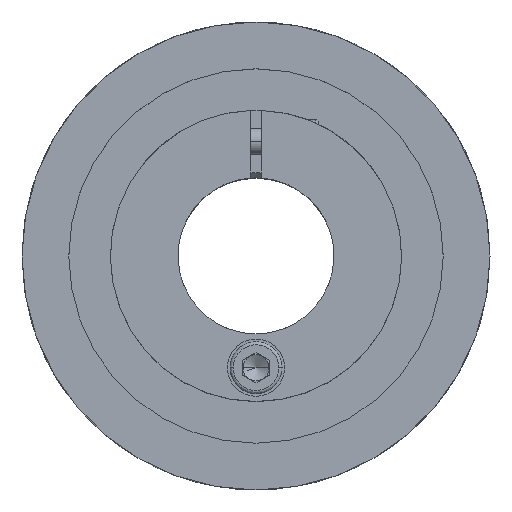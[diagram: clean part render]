
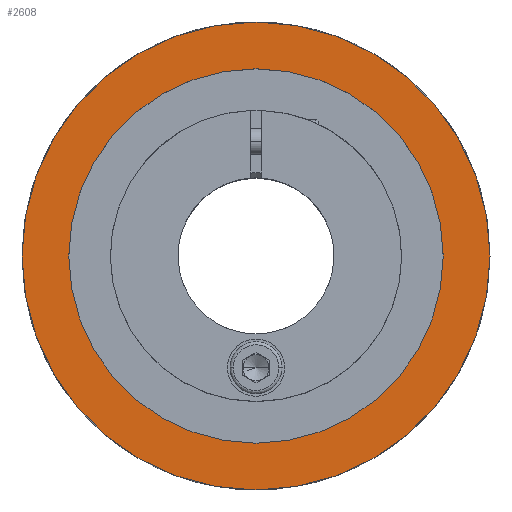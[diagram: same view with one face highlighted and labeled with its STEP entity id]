
A CAD part, top view. The second image highlights one B-rep face of the part: STEP entity #2608.
In plain terms, the highlighted planar face has unit normal (0, 0, 1).
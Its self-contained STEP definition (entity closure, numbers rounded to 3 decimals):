
#13 = EDGE_LOOP ( 'NONE', ( #4335, #1033 ) ) ;
#207 = ORIENTED_EDGE ( 'NONE', *, *, #2564, .F. ) ;
#398 = DIRECTION ( 'NONE',  ( 1., 0., 0. ) ) ;
#565 = VERTEX_POINT ( 'NONE', #1135 ) ;
#619 = CARTESIAN_POINT ( 'NONE',  ( 0., 0., 0. ) ) ;
#666 = PLANE ( 'NONE',  #4563 ) ;
#691 = CARTESIAN_POINT ( 'NONE',  ( 0., 0., 0. ) ) ;
#754 = VERTEX_POINT ( 'NONE', #2922 ) ;
#1003 = AXIS2_PLACEMENT_3D ( 'NONE', #619, #4077, #2029 ) ;
#1033 = ORIENTED_EDGE ( 'NONE', *, *, #3595, .F. ) ;
#1035 = CARTESIAN_POINT ( 'NONE',  ( 45.54, -45.54, 0. ) ) ;
#1135 = CARTESIAN_POINT ( 'NONE',  ( 36., 0., 0. ) ) ;
#1160 = CIRCLE ( 'NONE', #2352, 36. ) ;
#1403 = DIRECTION ( 'NONE',  ( 0., 0., -1. ) ) ;
#1732 = CARTESIAN_POINT ( 'NONE',  ( 0., 0., 0. ) ) ;
#2029 = DIRECTION ( 'NONE',  ( 1., 0., 0. ) ) ;
#2086 = DIRECTION ( 'NONE',  ( 0., 0., -1. ) ) ;
#2126 = CIRCLE ( 'NONE', #2201, 45. ) ;
#2196 = CIRCLE ( 'NONE', #1003, 45. ) ;
#2201 = AXIS2_PLACEMENT_3D ( 'NONE', #3850, #2086, #3943 ) ;
#2291 = CARTESIAN_POINT ( 'NONE',  ( -36., 0., 0. ) ) ;
#2352 = AXIS2_PLACEMENT_3D ( 'NONE', #1732, #3556, #398 ) ;
#2395 = VERTEX_POINT ( 'NONE', #3313 ) ;
#2481 = FACE_BOUND ( 'NONE', #13, .T. ) ;
#2564 = EDGE_CURVE ( 'NONE', #2395, #754, #2196, .T. ) ;
#2578 = CIRCLE ( 'NONE', #3691, 36. ) ;
#2608 = ADVANCED_FACE ( 'NONE', ( #2481, #4189 ), #666, .F. ) ;
#2798 = VERTEX_POINT ( 'NONE', #2291 ) ;
#2860 = ORIENTED_EDGE ( 'NONE', *, *, #3165, .F. ) ;
#2922 = CARTESIAN_POINT ( 'NONE',  ( 45., 0., 0. ) ) ;
#3165 = EDGE_CURVE ( 'NONE', #754, #2395, #2126, .T. ) ;
#3243 = EDGE_CURVE ( 'NONE', #565, #2798, #1160, .T. ) ;
#3313 = CARTESIAN_POINT ( 'NONE',  ( -45., 0., 0. ) ) ;
#3519 = DIRECTION ( 'NONE',  ( 1., 0., 0. ) ) ;
#3556 = DIRECTION ( 'NONE',  ( 0., 0., 1. ) ) ;
#3595 = EDGE_CURVE ( 'NONE', #2798, #565, #2578, .T. ) ;
#3634 = DIRECTION ( 'NONE',  ( -1., 0., 0. ) ) ;
#3691 = AXIS2_PLACEMENT_3D ( 'NONE', #691, #4518, #3519 ) ;
#3850 = CARTESIAN_POINT ( 'NONE',  ( 0., 0., 0. ) ) ;
#3943 = DIRECTION ( 'NONE',  ( 1., 0., 0. ) ) ;
#4039 = EDGE_LOOP ( 'NONE', ( #2860, #207 ) ) ;
#4077 = DIRECTION ( 'NONE',  ( 0., 0., -1. ) ) ;
#4189 = FACE_OUTER_BOUND ( 'NONE', #4039, .T. ) ;
#4335 = ORIENTED_EDGE ( 'NONE', *, *, #3243, .F. ) ;
#4518 = DIRECTION ( 'NONE',  ( 0., 0., 1. ) ) ;
#4563 = AXIS2_PLACEMENT_3D ( 'NONE', #1035, #1403, #3634 ) ;
